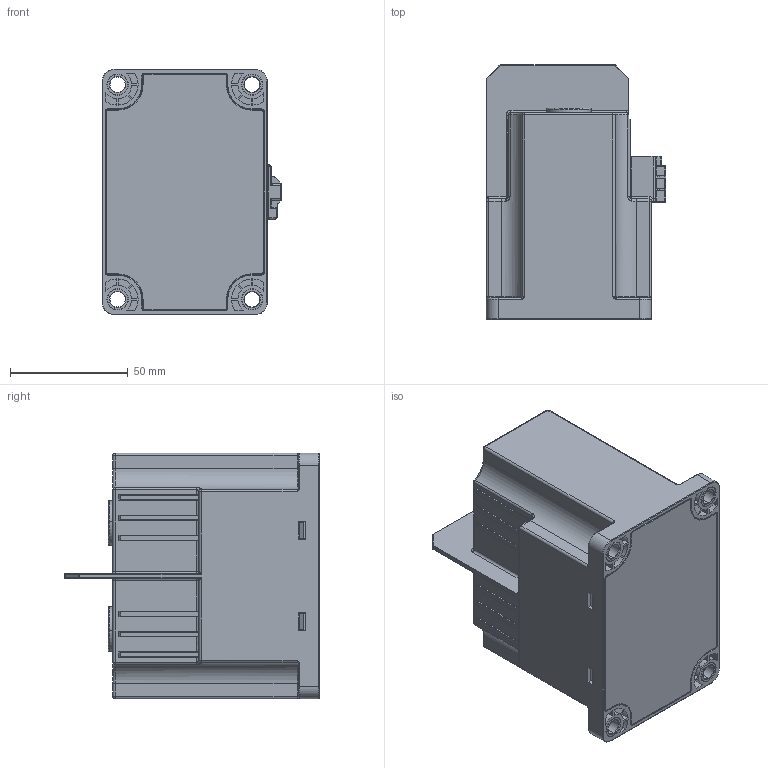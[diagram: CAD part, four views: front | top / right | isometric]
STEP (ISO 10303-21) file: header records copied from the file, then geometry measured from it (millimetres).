
FILE_DESCRIPTION (( 'STEP AP203' ), '1' );
FILE_NAME ('NDZ3AT-60010HÍâÐÎ3D.STEP', '2022-06-15T03:34:07', ( '' ), ( '' ), 'SwSTEP 2.0', 'SolidWorks 2018', '' );
FILE_SCHEMA (( 'CONFIG_CONTROL_DESIGN' ));
Products named in the file (1): NDZ3AT-60010H俋倛3D
Bounding box: 76.1 x 107.9 x 104 mm (x, y, z)
Volume: 93538.8 mm3; surface area: 111576.3 mm2
Topology: 6 solids, 6 shells, 1583 faces, 4011 edges, 2443 vertices
Faces by surface type: plane 756, cylinder 575, torus 175, bspline 38, sphere 31, cone 8
Entity records: 53435 total; most frequent: CARTESIAN_POINT 15919, ORIENTED_EDGE 7924, DIRECTION 7733, EDGE_CURVE 3962, AXIS2_PLACEMENT_3D 2580, LINE 2573, VECTOR 2573, VERTEX_POINT 2443
